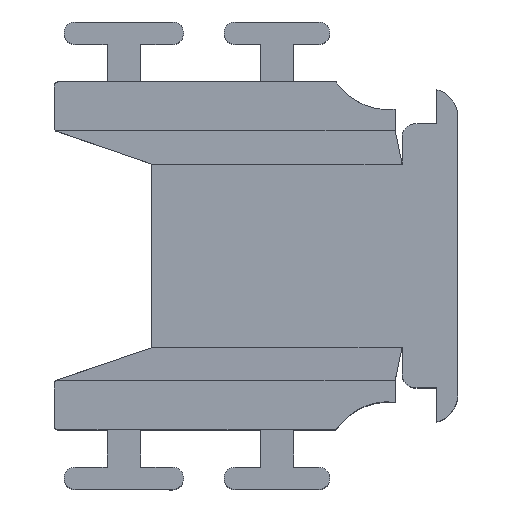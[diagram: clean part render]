
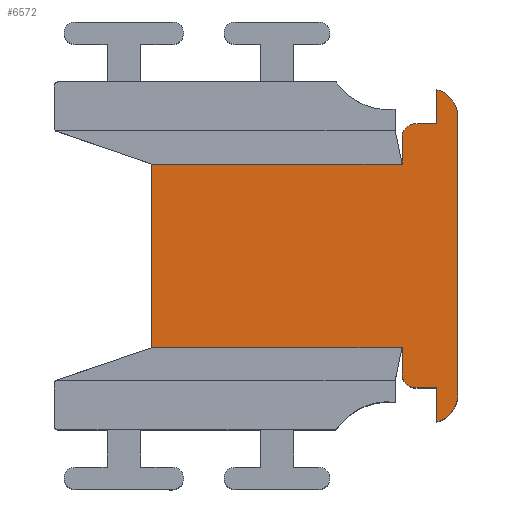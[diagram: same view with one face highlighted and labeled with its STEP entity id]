
A CAD part, top view. The second image highlights one B-rep face of the part: STEP entity #6572.
In plain terms, the highlighted planar face has unit normal (0, 0, 1).
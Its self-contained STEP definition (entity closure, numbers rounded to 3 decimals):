
#104=CIRCLE('',#6811,1.);
#116=CIRCLE('',#6877,1.);
#119=CIRCLE('',#6883,2.);
#121=CIRCLE('',#6886,2.);
#357=PLANE('',#6888);
#698=FACE_OUTER_BOUND('',#1058,.T.);
#1058=EDGE_LOOP('',(#6018,#6019,#6020,#6021,#6022,#6023,#6024,#6025,#6026,
#6027,#6028,#6029,#6030,#6031));
#1339=LINE('',#10869,#1999);
#1471=LINE('',#11253,#2131);
#1526=LINE('',#11388,#2186);
#1615=LINE('',#11600,#2275);
#1616=LINE('',#11602,#2276);
#1644=LINE('',#11690,#2304);
#1689=LINE('',#12042,#2349);
#1692=LINE('',#12053,#2352);
#1695=LINE('',#12059,#2355);
#1699=LINE('',#12072,#2359);
#1999=VECTOR('',#7328,10.);
#2131=VECTOR('',#7624,10.);
#2186=VECTOR('',#7729,10.);
#2275=VECTOR('',#7906,10.);
#2276=VECTOR('',#7909,10.);
#2304=VECTOR('',#7967,10.);
#2349=VECTOR('',#8062,10.);
#2352=VECTOR('',#8073,10.);
#2355=VECTOR('',#8078,10.);
#2359=VECTOR('',#8096,10.);
#2942=VERTEX_POINT('',#10866);
#2943=VERTEX_POINT('',#10868);
#2959=VERTEX_POINT('',#10948);
#3049=VERTEX_POINT('',#11233);
#3088=VERTEX_POINT('',#11387);
#3133=VERTEX_POINT('',#11502);
#3134=VERTEX_POINT('',#11504);
#3182=VERTEX_POINT('',#11687);
#3183=VERTEX_POINT('',#11689);
#3214=VERTEX_POINT('',#12040);
#3215=VERTEX_POINT('',#12044);
#3218=VERTEX_POINT('',#12052);
#3220=VERTEX_POINT('',#12058);
#3222=VERTEX_POINT('',#12067);
#3723=EDGE_CURVE('',#2943,#2942,#1339,.T.);
#3888=EDGE_CURVE('',#3049,#2959,#1471,.T.);
#3946=EDGE_CURVE('',#3088,#2943,#1526,.T.);
#4003=EDGE_CURVE('',#3134,#3133,#104,.T.);
#4052=EDGE_CURVE('',#3049,#3134,#1615,.T.);
#4053=EDGE_CURVE('',#2959,#2942,#1616,.T.);
#4087=EDGE_CURVE('',#3183,#3182,#1644,.T.);
#4151=EDGE_CURVE('',#3133,#3214,#1689,.T.);
#4152=EDGE_CURVE('',#3215,#3088,#116,.T.);
#4156=EDGE_CURVE('',#3218,#3215,#1692,.T.);
#4159=EDGE_CURVE('',#3220,#3218,#1695,.F.);
#4162=EDGE_CURVE('',#3182,#3220,#119,.T.);
#4164=EDGE_CURVE('',#3222,#3183,#121,.T.);
#4167=EDGE_CURVE('',#3214,#3222,#1699,.F.);
#6018=ORIENTED_EDGE('',*,*,#4167,.T.);
#6019=ORIENTED_EDGE('',*,*,#4164,.T.);
#6020=ORIENTED_EDGE('',*,*,#4087,.T.);
#6021=ORIENTED_EDGE('',*,*,#4162,.T.);
#6022=ORIENTED_EDGE('',*,*,#4159,.T.);
#6023=ORIENTED_EDGE('',*,*,#4156,.T.);
#6024=ORIENTED_EDGE('',*,*,#4152,.T.);
#6025=ORIENTED_EDGE('',*,*,#3946,.T.);
#6026=ORIENTED_EDGE('',*,*,#3723,.T.);
#6027=ORIENTED_EDGE('',*,*,#4053,.F.);
#6028=ORIENTED_EDGE('',*,*,#3888,.F.);
#6029=ORIENTED_EDGE('',*,*,#4052,.T.);
#6030=ORIENTED_EDGE('',*,*,#4003,.T.);
#6031=ORIENTED_EDGE('',*,*,#4151,.T.);
#6572=ADVANCED_FACE('',(#698),#357,.T.);
#6811=AXIS2_PLACEMENT_3D('',#11505,#7815,#7816);
#6877=AXIS2_PLACEMENT_3D('',#12045,#8065,#8066);
#6883=AXIS2_PLACEMENT_3D('',#12063,#8084,#8085);
#6886=AXIS2_PLACEMENT_3D('',#12068,#8090,#8091);
#6888=AXIS2_PLACEMENT_3D('',#12073,#8097,#8098);
#7328=DIRECTION('',(-1.,0.,0.));
#7624=DIRECTION('',(-1.,0.,0.));
#7729=DIRECTION('',(0.,-1.,0.));
#7815=DIRECTION('center_axis',(0.,0.,1.));
#7816=DIRECTION('ref_axis',(-1.,0.,0.));
#7906=DIRECTION('',(0.,-1.,0.));
#7909=DIRECTION('',(0.,1.,0.));
#7967=DIRECTION('',(0.,1.,0.));
#8062=DIRECTION('',(1.,0.,0.));
#8065=DIRECTION('center_axis',(0.,0.,1.));
#8066=DIRECTION('ref_axis',(0.,1.,0.));
#8073=DIRECTION('',(-1.,0.,0.));
#8078=DIRECTION('',(0.,1.,0.));
#8084=DIRECTION('center_axis',(0.,0.,1.));
#8085=DIRECTION('ref_axis',(1.,0.,0.));
#8090=DIRECTION('center_axis',(0.,0.,1.));
#8091=DIRECTION('ref_axis',(0.,-1.,0.));
#8096=DIRECTION('',(0.,1.,0.));
#8097=DIRECTION('center_axis',(0.,0.,1.));
#8098=DIRECTION('ref_axis',(1.,0.,0.));
#10866=CARTESIAN_POINT('',(50.,11.089,23.));
#10868=CARTESIAN_POINT('',(68.,11.089,23.));
#10869=CARTESIAN_POINT('',(68.,11.089,23.));
#10948=CARTESIAN_POINT('',(50.,-2.111,23.));
#11233=CARTESIAN_POINT('',(68.,-2.111,23.));
#11253=CARTESIAN_POINT('',(68.,-2.111,23.));
#11387=CARTESIAN_POINT('',(68.,13.,23.));
#11388=CARTESIAN_POINT('',(68.,-4.,23.));
#11502=CARTESIAN_POINT('',(69.,-5.,23.));
#11504=CARTESIAN_POINT('',(68.,-4.,23.));
#11505=CARTESIAN_POINT('Origin',(69.,-4.,23.));
#11600=CARTESIAN_POINT('',(68.,-4.,23.));
#11602=CARTESIAN_POINT('',(50.,-2.111,23.));
#11687=CARTESIAN_POINT('',(72.,14.5,23.));
#11689=CARTESIAN_POINT('',(72.,-5.5,23.));
#11690=CARTESIAN_POINT('',(72.,-5.5,23.));
#12040=CARTESIAN_POINT('',(70.5,-5.,23.));
#12042=CARTESIAN_POINT('',(70.,-5.,23.));
#12044=CARTESIAN_POINT('',(69.,14.,23.));
#12045=CARTESIAN_POINT('Origin',(69.,13.,23.));
#12052=CARTESIAN_POINT('',(70.5,14.,23.));
#12053=CARTESIAN_POINT('',(69.,14.,23.));
#12058=CARTESIAN_POINT('',(70.5,16.436,23.));
#12059=CARTESIAN_POINT('',(70.5,10.5,23.));
#12063=CARTESIAN_POINT('Origin',(70.,14.5,23.));
#12067=CARTESIAN_POINT('',(70.5,-7.436,23.));
#12068=CARTESIAN_POINT('Origin',(70.,-5.5,23.));
#12072=CARTESIAN_POINT('',(70.5,-0.25,23.));
#12073=CARTESIAN_POINT('Origin',(70.,4.5,23.));
